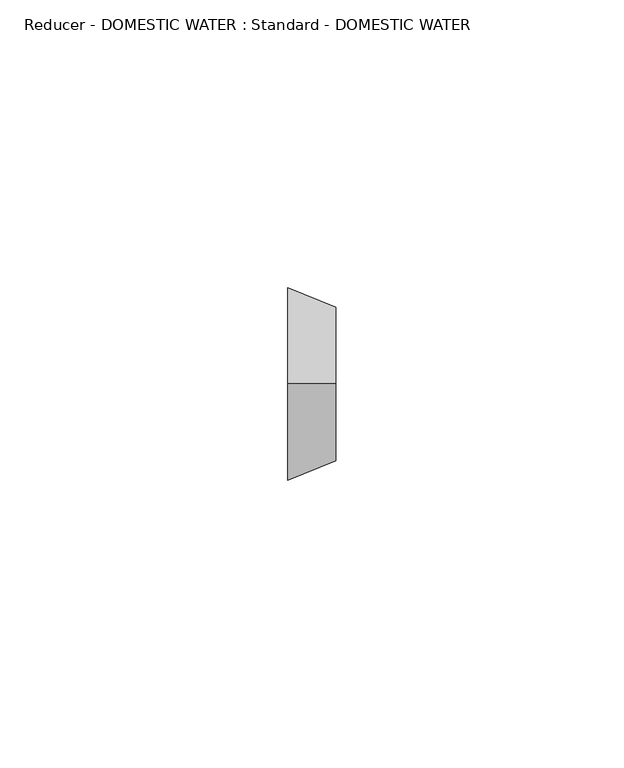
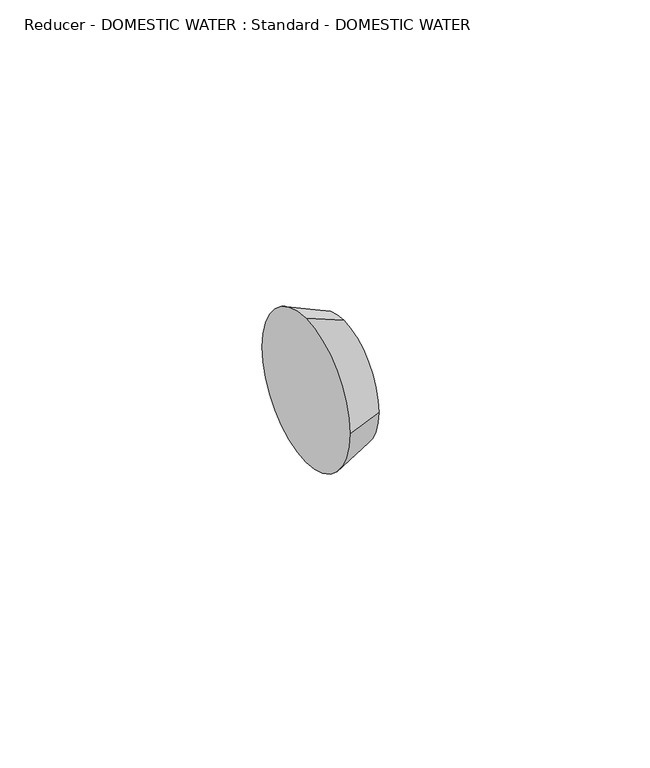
"""IFC4 building model written with IfcOpenShell, lengths in millimetres: pipe fitting geometry, Reducer - DOMESTIC WATER : Standard - DOMESTIC WATER."""

from ifc_helpers import new_model, si_unit, frame, origin, place, context, project, spatial, polyline, circle_curve, source, transform, mapped, element, save
from ifc_brep_helpers import plane_surface, revolved_surface, advanced_brep


def reducer_domestic_water_standard_domestic_water_b5b7dccc(model_context):
    return source(origin(), model_context, "Body", "AdvancedBrep", [
        advanced_brep(
        [(8.35025, 0.0, 13.335), (8.35025, -13.335, 0.0), (8.35025, 0.0, -13.335), (8.35025, 13.335, 0.0), (0.0, 0.0, 16.7005), (0.0, 16.7005, 0.0), (0.0, 0.0, -16.7005), (0.0, -16.7005, 0.0)],
        [
            (0, 1, circle_curve(frame((8.35025, 0.0, 0.0), z_axis=(1.0, 0.0, 0.0), x_axis=(0.0, 0.0, 1.0)), 13.335)),
            (1, 2, circle_curve(frame((8.35025, 0.0, 0.0), z_axis=(1.0, 0.0, 0.0), x_axis=(0.0, -1.0, 0.0)), 13.335)),
            (2, 3, circle_curve(frame((8.35025, 0.0, 0.0), z_axis=(1.0, 0.0, 0.0), x_axis=(0.0, 0.0, -1.0)), 13.335)),
            (3, 0, circle_curve(frame((8.35025, 0.0, 0.0), z_axis=(1.0, 0.0, 0.0), x_axis=(0.0, 1.0, 0.0)), 13.335)),
            (4, 5, circle_curve(frame((0.0, 0.0, 0.0), z_axis=(-1.0, 0.0, 0.0), x_axis=(0.0, 1.0, 0.0)), 16.7005)),
            (5, 6, circle_curve(frame((0.0, 0.0, 0.0), z_axis=(-1.0, 0.0, 0.0), x_axis=(0.0, 0.0, -1.0)), 16.7005)),
            (6, 7, circle_curve(frame((0.0, 0.0, 0.0), z_axis=(-1.0, 0.0, 0.0), x_axis=(0.0, -1.0, 0.0)), 16.7005)),
            (7, 4, circle_curve(frame((0.0, 0.0, 0.0), z_axis=(-1.0, 0.0, 0.0), x_axis=(0.0, 0.0, 1.0)), 16.7005)),
            (7, 1),
            (0, 4),
            (6, 2),
            (5, 3),
        ],
        [
            plane_surface(frame((8.35025, 0.0, 0.0), z_axis=(1.0, 0.0, 0.0), x_axis=(0.0, -1.0, 0.0))),
            plane_surface(frame((0.0, 0.0, 0.0), z_axis=(-1.0, 0.0, 0.0), x_axis=(0.0, -1.0, 0.0))),
            revolved_surface(polyline([(8.350250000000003, 0.0, 13.334999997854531), (0.0, 0.0, 16.7005)]), (41.4361462, 0.0, 0.0), (-1.0, 0.0, 0.0)),
            revolved_surface(polyline([(8.350250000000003, -13.334999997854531, 0.0), (0.0, -16.7005, 0.0)]), (41.4361462, 0.0, 0.0), (-1.0, 0.0, 0.0)),
            revolved_surface(polyline([(8.350250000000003, 0.0, -13.334999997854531), (0.0, 0.0, -16.7005)]), (41.4361462, 0.0, 0.0), (-1.0, 0.0, 0.0)),
            revolved_surface(polyline([(8.350250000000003, 13.334999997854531, 0.0), (0.0, 16.7005, 0.0)]), (41.4361462, 0.0, 0.0), (-1.0, 0.0, 0.0)),
        ],
        [
            (0, [[1, 2, 3, 4]]),
            (1, [[5, 6, 7, 8]]),
            (2, [[-8, 9, -1, 10]]),
            (3, [[-7, 11, -2, -9]]),
            (4, [[-6, 12, -3, -11]]),
            (5, [[-5, -10, -4, -12]]),
        ],
    ),
        advanced_brep(
        [(8.35025, 0.0, 13.335), (8.35025, -13.335, 0.0), (8.35025, 0.0, -13.335), (8.35025, 13.335, 0.0), (0.0, 0.0, 16.7005), (0.0, 16.7005, 0.0), (0.0, 0.0, -16.7005), (0.0, -16.7005, 0.0)],
        [
            (0, 1, circle_curve(frame((8.35025, 0.0, 0.0), z_axis=(1.0, 0.0, 0.0), x_axis=(0.0, 0.0, 1.0)), 13.335)),
            (1, 2, circle_curve(frame((8.35025, 0.0, 0.0), z_axis=(1.0, 0.0, 0.0), x_axis=(0.0, -1.0, 0.0)), 13.335)),
            (2, 3, circle_curve(frame((8.35025, 0.0, 0.0), z_axis=(1.0, 0.0, -1.4967561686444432e-12), x_axis=(-1.4968436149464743e-12, 0.0, -1.0)), 13.335)),
            (3, 0, circle_curve(frame((8.35025, 0.0, 0.0), z_axis=(1.0, 0.0, 0.0), x_axis=(0.0, 1.0, 0.0)), 13.335)),
            (4, 5, circle_curve(frame((0.0, 0.0, 0.0), z_axis=(-1.0, 0.0, 0.0), x_axis=(0.0, 1.0, 0.0)), 16.7005)),
            (5, 6, circle_curve(frame((0.0, 0.0, 0.0), z_axis=(-1.0, 0.0, 1.4967561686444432e-12), x_axis=(-1.4968436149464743e-12, 0.0, -1.0)), 16.7005)),
            (6, 7, circle_curve(frame((0.0, 0.0, 0.0), z_axis=(-1.0, 0.0, 0.0), x_axis=(0.0, -1.0, 0.0)), 16.7005)),
            (7, 4, circle_curve(frame((0.0, 0.0, 0.0), z_axis=(-1.0, 0.0, 0.0), x_axis=(0.0, 0.0, 1.0)), 16.7005)),
            (7, 1),
            (0, 4),
            (6, 2),
            (5, 3),
        ],
        [
            plane_surface(frame((8.35025, 0.0, 0.0), z_axis=(1.0, 0.0, 0.0), x_axis=(0.0, -1.0, 0.0))),
            plane_surface(frame((0.0, 0.0, 0.0), z_axis=(-1.0, 0.0, 0.0), x_axis=(0.0, -1.0, 0.0))),
            revolved_surface(polyline([(8.350250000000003, 0.0, 13.334999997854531), (0.0, 0.0, 16.7005)]), (41.4361462, 0.0, 0.0), (-1.0, 0.0, 0.0)),
            revolved_surface(polyline([(8.350250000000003, -13.334999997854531, 0.0), (0.0, -16.7005, 0.0)]), (41.4361462, 0.0, 0.0), (-1.0, 0.0, 0.0)),
            revolved_surface(polyline([(8.350250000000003, 0.0, -13.334999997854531), (-2.4996893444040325e-11, 0.0, -16.700500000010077)]), (41.4361462, 0.0, 0.0), (-1.0, 0.0, 1.4967561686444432e-12)),
            revolved_surface(polyline([(8.350250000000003, 13.334999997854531, 0.0), (0.0, 16.7005, 0.0)]), (41.4361462, 0.0, 0.0), (-1.0, 0.0, 0.0)),
        ],
        [
            (0, [[1, 2, 3, 4]]),
            (1, [[5, 6, 7, 8]]),
            (2, [[-8, 9, -1, 10]]),
            (3, [[-7, 11, -2, -9]]),
            (4, [[-6, 12, -3, -11]]),
            (5, [[-5, -10, -4, -12]]),
        ],
    ),
    ])


if __name__ == "__main__":
    model = new_model("IFC4")
    model_context = context("Model", 3, world=origin())
    ifc_project = project(units=[si_unit("LENGTHUNIT", "METRE", prefix="MILLI")], contexts=[model_context])
    site = spatial("IfcSite", under=ifc_project)
    building = spatial("IfcBuilding", under=site)
    placement = place(None, origin())
    reducer_domestic_water_standard_domestic_water_shape = reducer_domestic_water_standard_domestic_water_b5b7dccc(model_context)
    element("IfcPipeFitting", 1, ObjectType="Reducer - DOMESTIC WATER : Standard - DOMESTIC WATER", at=placement, inside=building, context=model_context, shape_type="MappedRepresentation", body=[
        mapped(reducer_domestic_water_standard_domestic_water_shape, transform((0.0, 0.0, 0.0), x_axis=(1.0, 0.0, 0.0), y_axis=(0.0, 1.0, 0.0), z_axis=(0.0, 0.0, 1.0))),
    ])
    save(model, "model.ifc")
